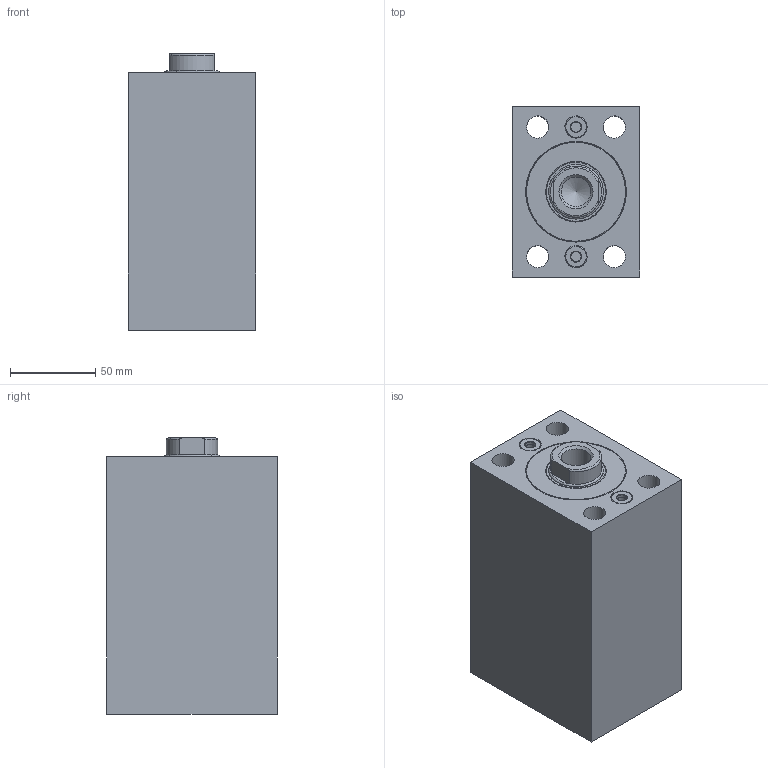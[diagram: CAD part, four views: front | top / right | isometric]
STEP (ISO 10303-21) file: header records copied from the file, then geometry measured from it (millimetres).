
FILE_DESCRIPTION( ( 'STEP AP203' ), '1' );
FILE_NAME( 'C:/Users/SAYKO.ltd/Desktop/SBZ100/07/SBZ100-50/SBZ100.50__FORM_07_STROKE_65__H2_58_POS_0_.stp', ' ', ( ' ' ), ( ' ' ), 'PSStep 15.0.47', 'PARTsolutions', ' ' );
FILE_SCHEMA( ( 'CONFIG_CONTROL_DESIGN' ) );
Length unit declared in the file: millimetre
Products named in the file (5): SBZ100.50  FORM=07 STROKE=65 (H2=58 POS=0); HI_SBZ10050  FORM=07 STROKE=65 H2=58 -C; HI_SBZ10050  FORM=07 STROKE=65-R; HI_SBZ100.50-C; HI_SBZ100.50-S
Assembly tree (4 placements, depth 2):
  SBZ100.50  FORM=07 STROKE=65 (H2=58 POS=0)
    HI_SBZ10050  FORM=07 STROKE=65 H2=58 -C
    HI_SBZ10050  FORM=07 STROKE=65-R
    HI_SBZ100.50-C
    HI_SBZ100.50-S
Bounding box: 75 x 100 x 162 mm (x, y, z)
Volume: 962546.1 mm3; surface area: 157630.9 mm2
Topology: 4 solids, 4 shells, 74 faces, 136 edges, 87 vertices
Faces by surface type: plane 33, cylinder 28, cone 10, torus 3
Full cylindrical faces by diameter (mm): 6 x4, 13 x6, 17.294 x1, 20 x4, 32 x4, 35.5 x1, 40 x2, 50 x2, 59 x2
Entity records: 4047 total; most frequent: CARTESIAN_POINT 2717, ORIENTED_EDGE 188, DIRECTION 178, EDGE_LOOP 140, FACE_OUTER_BOUND 101, EDGE_CURVE 94, VERTEX_POINT 83, AXIS2_PLACEMENT_3D 81
